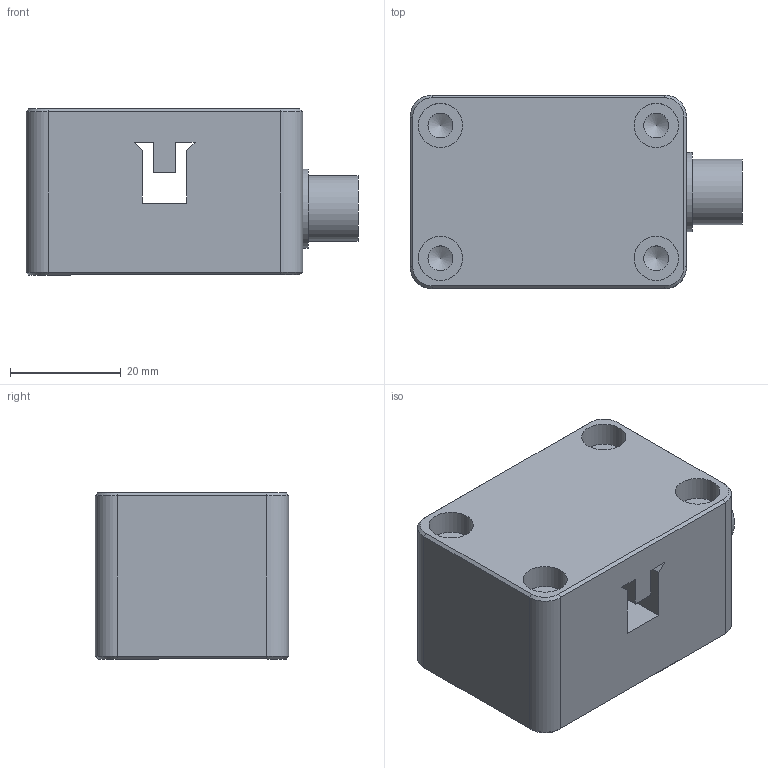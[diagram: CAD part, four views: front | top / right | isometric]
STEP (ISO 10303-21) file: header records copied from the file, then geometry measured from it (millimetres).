
FILE_DESCRIPTION (( 'STEP AP214' ), '1' );
FILE_NAME ('BDS.STEP', '2024-10-11T14:46:29', ( '' ), ( '' ), 'SwSTEP 2.0', 'SolidWorks 2024', '' );
FILE_SCHEMA (( 'AUTOMOTIVE_DESIGN' ));
Length unit declared in the file: millimetre
Products named in the file (1): BDS
Bounding box: 60 x 35 x 30 mm (x, y, z)
Volume: 49276.3 mm3; surface area: 11444.7 mm2
Topology: 1 solids, 1 shells, 60 faces, 134 edges, 82 vertices
Faces by surface type: plane 30, cylinder 16, cone 14
Full cylindrical faces by diameter (mm): 3.3 x2, 4.5 x4, 8 x4, 11.85 x1, 14.3 x1
Entity records: 1525 total; most frequent: DIRECTION 272, CARTESIAN_POINT 247, ORIENTED_EDGE 220, EDGE_CURVE 110, AXIS2_PLACEMENT_3D 101, EDGE_LOOP 86, VERTEX_POINT 76, FACE_OUTER_BOUND 72
